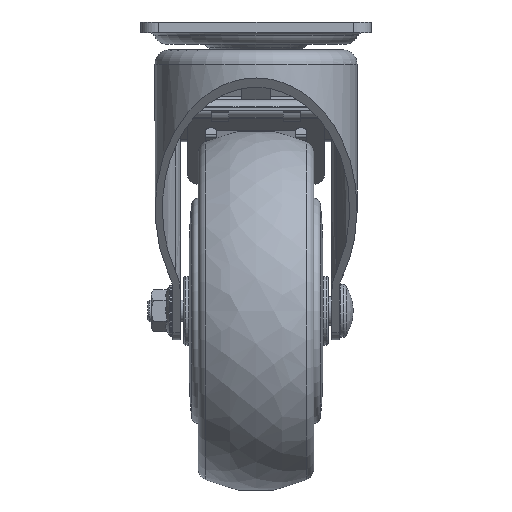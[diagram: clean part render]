
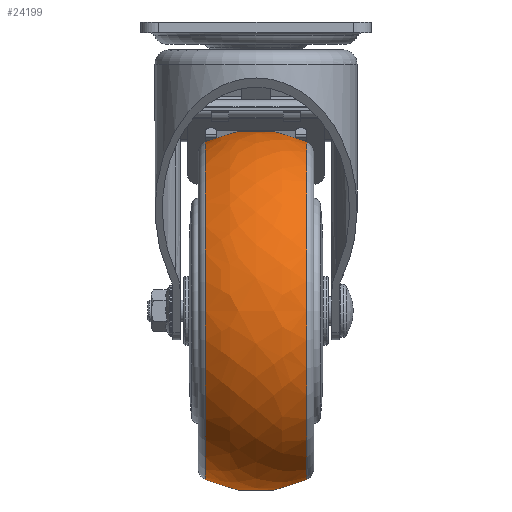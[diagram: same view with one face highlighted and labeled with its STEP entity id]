
A CAD part, left-side view. The second image highlights one B-rep face of the part: STEP entity #24199.
In plain terms, the highlighted free-form (B-spline) face has degree [2, 2] with [3, 9] control points.
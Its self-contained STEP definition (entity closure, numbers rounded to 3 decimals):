
#24127=CARTESIAN_POINT('',(75.258,-14.035,-24.9));
#24128=VERTEX_POINT('',#24127);
#24129=CARTESIAN_POINT('',(28.5,-14.035,-24.9));
#24130=DIRECTION('',(0.0,-1.0,0.0));
#24131=DIRECTION('',(1.0,0.0,0.0));
#24132=AXIS2_PLACEMENT_3D('',#24129,#24130,#24131);
#24133=CIRCLE('',#24132,46.758);
#24134=EDGE_CURVE('',#24128,#24128,#24133,.T.);
#24150=CARTESIAN_POINT('',(28.5,-14.035,-71.658));
#24151=CARTESIAN_POINT('',(28.5,0.,-78.508));
#24152=CARTESIAN_POINT('',(28.5,14.035,-71.658));
#24153=CARTESIAN_POINT('',(75.258,-14.035,-71.658));
#24154=CARTESIAN_POINT('',(82.108,0.,-78.508));
#24155=CARTESIAN_POINT('',(75.258,14.035,-71.658));
#24156=CARTESIAN_POINT('',(75.258,-14.035,-24.9));
#24157=CARTESIAN_POINT('',(82.108,0.,-24.9));
#24158=CARTESIAN_POINT('',(75.258,14.035,-24.9));
#24159=CARTESIAN_POINT('',(75.258,-14.035,21.858));
#24160=CARTESIAN_POINT('',(82.108,0.,28.708));
#24161=CARTESIAN_POINT('',(75.258,14.035,21.858));
#24162=CARTESIAN_POINT('',(28.5,-14.035,21.858));
#24163=CARTESIAN_POINT('',(28.5,0.,28.708));
#24164=CARTESIAN_POINT('',(28.5,14.035,21.858));
#24165=CARTESIAN_POINT('',(-18.258,-14.035,21.858));
#24166=CARTESIAN_POINT('',(-25.108,0.,28.708));
#24167=CARTESIAN_POINT('',(-18.258,14.035,21.858));
#24168=CARTESIAN_POINT('',(-18.258,-14.035,-24.9));
#24169=CARTESIAN_POINT('',(-25.108,0.,-24.9));
#24170=CARTESIAN_POINT('',(-18.258,14.035,-24.9));
#24171=CARTESIAN_POINT('',(-18.258,-14.035,-71.658));
#24172=CARTESIAN_POINT('',(-25.108,0.,-78.508));
#24173=CARTESIAN_POINT('',(-18.258,14.035,-71.658));
#24174=CARTESIAN_POINT('',(28.5,-14.035,-71.658));
#24175=CARTESIAN_POINT('',(28.5,0.,-78.508));
#24176=CARTESIAN_POINT('',(28.5,14.035,-71.658));
#24184=(BOUNDED_SURFACE()B_SPLINE_SURFACE(2,2,((#24150,#24153,#24156,#24159,#24162,#24165,#24168,#24171,#24174),(#24151,#24154,#24157,#24160,#24163,#24166,#24169,#24172,#24175),(#24152,#24155,#24158,#24161,#24164,#24167,#24170,#24173,#24176)),.UNSPECIFIED.,.F.,.T.,.U.)B_SPLINE_SURFACE_WITH_KNOTS((3,3),(3,2,2,2,3),(-0.454,0.454),(0.0,1.571,3.142,4.712,6.283),.UNSPECIFIED.)GEOMETRIC_REPRESENTATION_ITEM()RATIONAL_B_SPLINE_SURFACE(((1.0,0.707,1.0,0.707,1.0,0.707,1.0,0.707,1.0),(0.899,0.635,0.899,0.635,0.899,0.635,0.899,0.635,0.899),(1.0,0.707,1.0,0.707,1.0,0.707,1.0,0.707,1.0)))REPRESENTATION_ITEM('')SURFACE());
#24185=CARTESIAN_POINT('',(75.258,14.035,-24.9));
#24186=VERTEX_POINT('',#24185);
#24187=CARTESIAN_POINT('',(28.5,14.035,-24.9));
#24188=DIRECTION('',(0.0,-1.0,0.0));
#24189=DIRECTION('',(1.0,0.0,0.0));
#24190=AXIS2_PLACEMENT_3D('',#24187,#24188,#24189);
#24191=CIRCLE('',#24190,46.758);
#24192=EDGE_CURVE('',#24186,#24186,#24191,.T.);
#24193=ORIENTED_EDGE('',*,*,#24192,.T.);
#24194=EDGE_LOOP('',(#24193));
#24195=FACE_OUTER_BOUND('',#24194,.T.);
#24196=ORIENTED_EDGE('',*,*,#24134,.F.);
#24197=EDGE_LOOP('',(#24196));
#24198=FACE_BOUND('',#24197,.T.);
#24199=ADVANCED_FACE('',(#24195,#24198),#24184,.T.);
